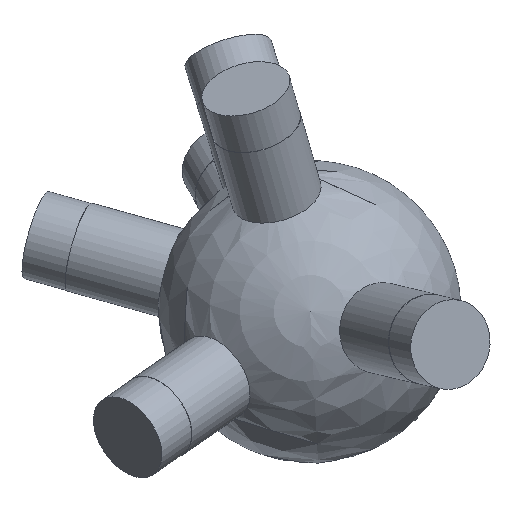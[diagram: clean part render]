
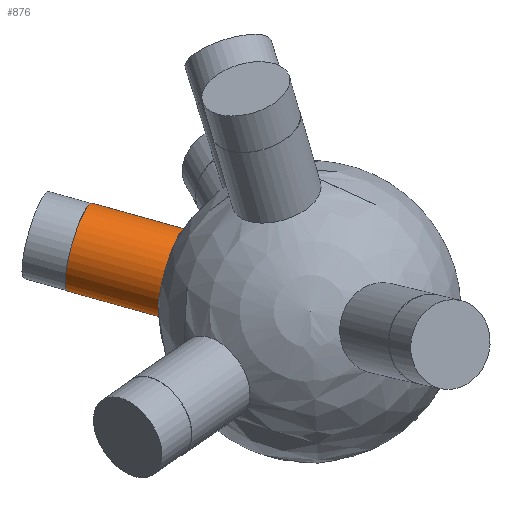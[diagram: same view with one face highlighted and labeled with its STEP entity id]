
A CAD part, top view. The second image highlights one B-rep face of the part: STEP entity #876.
In plain terms, the highlighted cylindrical face has radius 6 mm (diameter 12 mm), a full revolution.
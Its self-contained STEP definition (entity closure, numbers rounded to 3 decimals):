
#33 = SPHERICAL_SURFACE('',#34,20.);
#34 = AXIS2_PLACEMENT_3D('',#35,#36,#37);
#35 = CARTESIAN_POINT('',(0.,0.,0.));
#36 = DIRECTION('',(0.,0.,1.));
#37 = DIRECTION('',(1.,0.,-0.));
#447 = EDGE_CURVE('',#448,#448,#450,.T.);
#448 = VERTEX_POINT('',#449);
#449 = CARTESIAN_POINT('',(-19.686,-0.721,
    -3.458));
#450 = SURFACE_CURVE('',#451,(#456,#518),.PCURVE_S1.);
#451 = CIRCLE('',#452,6.);
#452 = AXIS2_PLACEMENT_3D('',#453,#454,#455);
#453 = CARTESIAN_POINT('',(-18.069,5.057,
    -3.458));
#454 = DIRECTION('',(-0.947,0.265,-0.181));
#455 = DIRECTION('',(-0.27,-0.963,0.)
  );
#456 = PCURVE('',#33,#457);
#457 = DEFINITIONAL_REPRESENTATION('',(#458),#517);
#458 = B_SPLINE_CURVE_WITH_KNOTS('',8,(#459,#460,#461,#462,#463,#464,
    #465,#466,#467,#468,#469,#470,#471,#472,#473,#474,#475,#476,#477,
    #478,#479,#480,#481,#482,#483,#484,#485,#486,#487,#488,#489,#490,
    #491,#492,#493,#494,#495,#496,#497,#498,#499,#500,#501,#502,#503,
    #504,#505,#506,#507,#508,#509,#510,#511,#512,#513,#514,#515,#516),
  .UNSPECIFIED.,.F.,.F.,(9,7,7,7,7,7,7,7,9),(0.,0.785,
    1.473,2.074,3.126,3.915,
    4.507,5.395,6.283),.UNSPECIFIED.);
#459 = CARTESIAN_POINT('',(3.178,-0.174));
#460 = CARTESIAN_POINT('',(3.177,-0.144));
#461 = CARTESIAN_POINT('',(3.172,-0.115));
#462 = CARTESIAN_POINT('',(3.164,-0.086));
#463 = CARTESIAN_POINT('',(3.153,-0.059));
#464 = CARTESIAN_POINT('',(3.139,-0.032));
#465 = CARTESIAN_POINT('',(3.123,-0.008));
#466 = CARTESIAN_POINT('',(3.104,0.015));
#467 = CARTESIAN_POINT('',(3.064,0.054));
#468 = CARTESIAN_POINT('',(3.044,0.07));
#469 = CARTESIAN_POINT('',(3.022,0.084));
#470 = CARTESIAN_POINT('',(2.999,0.096));
#471 = CARTESIAN_POINT('',(2.975,0.106));
#472 = CARTESIAN_POINT('',(2.95,0.114));
#473 = CARTESIAN_POINT('',(2.924,0.119));
#474 = CARTESIAN_POINT('',(2.876,0.123));
#475 = CARTESIAN_POINT('',(2.853,0.123));
#476 = CARTESIAN_POINT('',(2.83,0.122));
#477 = CARTESIAN_POINT('',(2.808,0.118));
#478 = CARTESIAN_POINT('',(2.785,0.113));
#479 = CARTESIAN_POINT('',(2.764,0.105));
#480 = CARTESIAN_POINT('',(2.743,0.096));
#481 = CARTESIAN_POINT('',(2.688,0.067));
#482 = CARTESIAN_POINT('',(2.656,0.043));
#483 = CARTESIAN_POINT('',(2.628,0.015));
#484 = CARTESIAN_POINT('',(2.604,-0.018));
#485 = CARTESIAN_POINT('',(2.585,-0.053));
#486 = CARTESIAN_POINT('',(2.571,-0.091));
#487 = CARTESIAN_POINT('',(2.562,-0.13));
#488 = CARTESIAN_POINT('',(2.557,-0.199));
#489 = CARTESIAN_POINT('',(2.559,-0.228));
#490 = CARTESIAN_POINT('',(2.563,-0.258));
#491 = CARTESIAN_POINT('',(2.571,-0.287));
#492 = CARTESIAN_POINT('',(2.582,-0.315));
#493 = CARTESIAN_POINT('',(2.596,-0.342));
#494 = CARTESIAN_POINT('',(2.614,-0.366));
#495 = CARTESIAN_POINT('',(2.65,-0.406));
#496 = CARTESIAN_POINT('',(2.668,-0.421));
#497 = CARTESIAN_POINT('',(2.687,-0.435));
#498 = CARTESIAN_POINT('',(2.707,-0.448));
#499 = CARTESIAN_POINT('',(2.729,-0.459));
#500 = CARTESIAN_POINT('',(2.752,-0.468));
#501 = CARTESIAN_POINT('',(2.775,-0.475));
#502 = CARTESIAN_POINT('',(2.836,-0.487));
#503 = CARTESIAN_POINT('',(2.874,-0.49));
#504 = CARTESIAN_POINT('',(2.913,-0.489));
#505 = CARTESIAN_POINT('',(2.95,-0.482));
#506 = CARTESIAN_POINT('',(2.986,-0.471));
#507 = CARTESIAN_POINT('',(3.02,-0.455));
#508 = CARTESIAN_POINT('',(3.05,-0.436));
#509 = CARTESIAN_POINT('',(3.104,-0.391));
#510 = CARTESIAN_POINT('',(3.127,-0.365));
#511 = CARTESIAN_POINT('',(3.146,-0.336));
#512 = CARTESIAN_POINT('',(3.161,-0.306));
#513 = CARTESIAN_POINT('',(3.172,-0.274));
#514 = CARTESIAN_POINT('',(3.178,-0.24));
#515 = CARTESIAN_POINT('',(3.18,-0.207));
#516 = CARTESIAN_POINT('',(3.178,-0.174));
#517 = ( GEOMETRIC_REPRESENTATION_CONTEXT(2) 
PARAMETRIC_REPRESENTATION_CONTEXT() REPRESENTATION_CONTEXT('2D SPACE',''
  ) );
#518 = PCURVE('',#519,#524);
#519 = CYLINDRICAL_SURFACE('',#520,6.);
#520 = AXIS2_PLACEMENT_3D('',#521,#522,#523);
#521 = CARTESIAN_POINT('',(0.,0.,0.));
#522 = DIRECTION('',(-0.947,0.265,-0.181));
#523 = DIRECTION('',(-0.27,-0.963,0.)
  );
#524 = DEFINITIONAL_REPRESENTATION('',(#525),#529);
#525 = LINE('',#526,#527);
#526 = CARTESIAN_POINT('',(0.,19.079));
#527 = VECTOR('',#528,1.);
#528 = DIRECTION('',(1.,0.));
#529 = ( GEOMETRIC_REPRESENTATION_CONTEXT(2) 
PARAMETRIC_REPRESENTATION_CONTEXT() REPRESENTATION_CONTEXT('2D SPACE',''
  ) );
#876 = ADVANCED_FACE('',(#877),#519,.T.);
#877 = FACE_BOUND('',#878,.T.);
#878 = EDGE_LOOP('',(#879,#902,#929,#930));
#879 = ORIENTED_EDGE('',*,*,#880,.T.);
#880 = EDGE_CURVE('',#448,#881,#883,.T.);
#881 = VERTEX_POINT('',#882);
#882 = CARTESIAN_POINT('',(-31.919,2.702,-5.799)
  );
#883 = SEAM_CURVE('',#884,(#888,#895),.PCURVE_S1.);
#884 = LINE('',#885,#886);
#885 = CARTESIAN_POINT('',(-1.617,-5.778,
    0.));
#886 = VECTOR('',#887,1.);
#887 = DIRECTION('',(-0.947,0.265,-0.181));
#888 = PCURVE('',#519,#889);
#889 = DEFINITIONAL_REPRESENTATION('',(#890),#894);
#890 = LINE('',#891,#892);
#891 = CARTESIAN_POINT('',(6.283,-0.));
#892 = VECTOR('',#893,1.);
#893 = DIRECTION('',(0.,1.));
#894 = ( GEOMETRIC_REPRESENTATION_CONTEXT(2) 
PARAMETRIC_REPRESENTATION_CONTEXT() REPRESENTATION_CONTEXT('2D SPACE',''
  ) );
#895 = PCURVE('',#519,#896);
#896 = DEFINITIONAL_REPRESENTATION('',(#897),#901);
#897 = LINE('',#898,#899);
#898 = CARTESIAN_POINT('',(0.,-0.));
#899 = VECTOR('',#900,1.);
#900 = DIRECTION('',(0.,1.));
#901 = ( GEOMETRIC_REPRESENTATION_CONTEXT(2) 
PARAMETRIC_REPRESENTATION_CONTEXT() REPRESENTATION_CONTEXT('2D SPACE',''
  ) );
#902 = ORIENTED_EDGE('',*,*,#903,.F.);
#903 = EDGE_CURVE('',#881,#881,#904,.T.);
#904 = SURFACE_CURVE('',#905,(#910,#917),.PCURVE_S1.);
#905 = CIRCLE('',#906,6.);
#906 = AXIS2_PLACEMENT_3D('',#907,#908,#909);
#907 = CARTESIAN_POINT('',(-30.302,8.48,-5.799
    ));
#908 = DIRECTION('',(-0.947,0.265,-0.181));
#909 = DIRECTION('',(-0.27,-0.963,0.)
  );
#910 = PCURVE('',#519,#911);
#911 = DEFINITIONAL_REPRESENTATION('',(#912),#916);
#912 = LINE('',#913,#914);
#913 = CARTESIAN_POINT('',(0.,31.996));
#914 = VECTOR('',#915,1.);
#915 = DIRECTION('',(1.,0.));
#916 = ( GEOMETRIC_REPRESENTATION_CONTEXT(2) 
PARAMETRIC_REPRESENTATION_CONTEXT() REPRESENTATION_CONTEXT('2D SPACE',''
  ) );
#917 = PCURVE('',#918,#923);
#918 = PLANE('',#919);
#919 = AXIS2_PLACEMENT_3D('',#920,#921,#922);
#920 = CARTESIAN_POINT('',(-30.302,8.48,-5.799
    ));
#921 = DIRECTION('',(-0.947,0.265,-0.181));
#922 = DIRECTION('',(-0.27,-0.963,0.)
  );
#923 = DEFINITIONAL_REPRESENTATION('',(#924),#928);
#924 = CIRCLE('',#925,6.);
#925 = AXIS2_PLACEMENT_2D('',#926,#927);
#926 = CARTESIAN_POINT('',(0.,0.));
#927 = DIRECTION('',(1.,0.));
#928 = ( GEOMETRIC_REPRESENTATION_CONTEXT(2) 
PARAMETRIC_REPRESENTATION_CONTEXT() REPRESENTATION_CONTEXT('2D SPACE',''
  ) );
#929 = ORIENTED_EDGE('',*,*,#880,.F.);
#930 = ORIENTED_EDGE('',*,*,#447,.T.);
